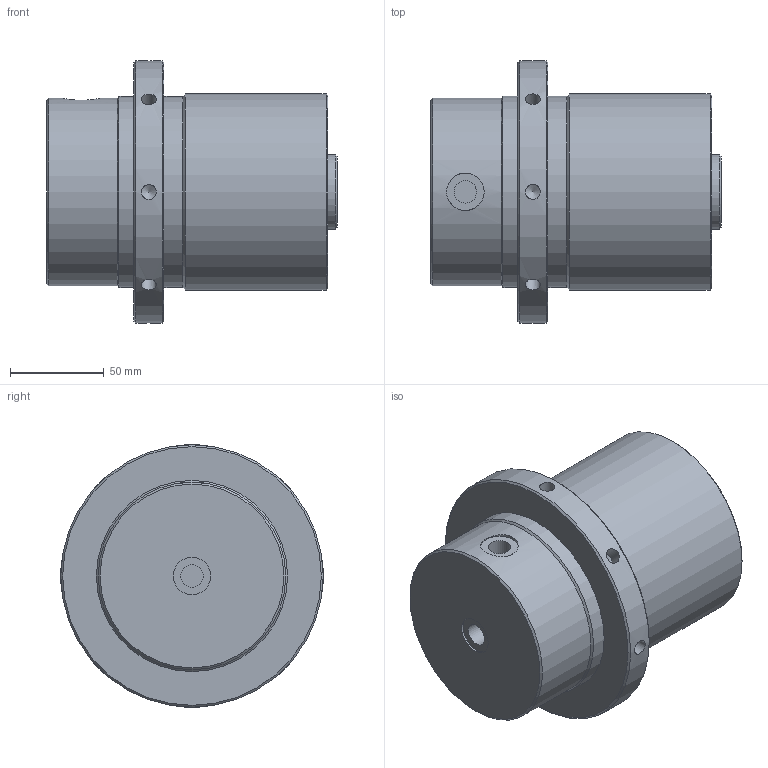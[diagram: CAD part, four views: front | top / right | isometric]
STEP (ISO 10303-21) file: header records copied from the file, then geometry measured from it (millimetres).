
FILE_DESCRIPTION( ( 'Unknown' ), '1' );
FILE_NAME( 'F:/JAKOB-STEP+IGES-Dateien/STEP-Dateien/ZSF/ZSF 10000.stp', 'Unknown', ( 'Unknown' ), ( 'Unknown' ), 'XStep 1.0', 'Unknown', ' ' );
FILE_SCHEMA( ( 'CONFIG_CONTROL_DESIGN' ) );
Length unit declared in the file: millimetre
Products named in the file (1): 1
Bounding box: 155 x 140 x 140 mm (x, y, z)
Volume: 1327648.9 mm3; surface area: 90349.8 mm2
Topology: 1 solids, 1 shells, 45 faces, 106 edges, 68 vertices
Faces by surface type: cylinder 19, cone 17, plane 9
Full cylindrical faces by diameter (mm): 8 x8, 12 x2, 20 x2, 26.5 x1, 40 x1, 100 x1, 102 x2, 105 x1, 140 x1
Entity records: 1561 total; most frequent: CARTESIAN_POINT 757, DIRECTION 162, EDGE_LOOP 88, ORIENTED_EDGE 88, AXIS2_PLACEMENT_3D 81, FACE_OUTER_BOUND 64, VERTEX_POINT 53, ADVANCED_FACE 45
